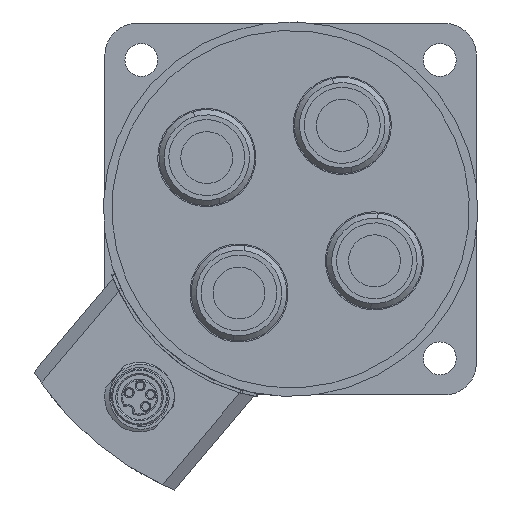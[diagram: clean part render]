
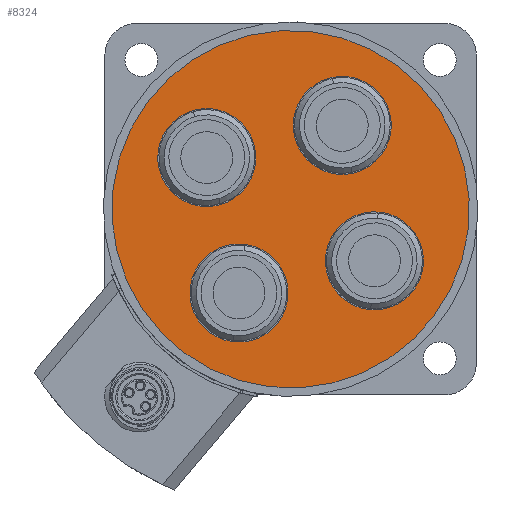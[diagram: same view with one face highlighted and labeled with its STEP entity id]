
A CAD part, left-side view. The second image highlights one B-rep face of the part: STEP entity #8324.
In plain terms, the highlighted planar face has unit normal (-1, 0, 0).
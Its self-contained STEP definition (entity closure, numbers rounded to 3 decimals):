
#159 = AXIS2_PLACEMENT_3D ( 'NONE', #8993, #16155, #1669 ) ;
#339 = AXIS2_PLACEMENT_3D ( 'NONE', #7915, #14897, #6416 ) ;
#388 = ORIENTED_EDGE ( 'NONE', *, *, #689, .F. ) ;
#536 = CARTESIAN_POINT ( 'NONE',  ( -172., -9.951, 5.705 ) ) ;
#628 = AXIS2_PLACEMENT_3D ( 'NONE', #12612, #15490, #1282 ) ;
#689 = EDGE_CURVE ( 'NONE', #18201, #9196, #16058, .T. ) ;
#744 = DIRECTION ( 'NONE',  ( 0., -0.231, -0.973 ) ) ;
#928 = DIRECTION ( 'NONE',  ( 0., 0.231, 0.973 ) ) ;
#940 = EDGE_CURVE ( 'NONE', #15068, #3623, #11328, .T. ) ;
#1209 = ORIENTED_EDGE ( 'NONE', *, *, #4234, .F. ) ;
#1270 = ORIENTED_EDGE ( 'NONE', *, *, #16879, .T. ) ;
#1282 = DIRECTION ( 'NONE',  ( 0., -0.231, -0.973 ) ) ;
#1474 = AXIS2_PLACEMENT_3D ( 'NONE', #1617, #7185, #16942 ) ;
#1552 = AXIS2_PLACEMENT_3D ( 'NONE', #8163, #9464, #928 ) ;
#1582 = DIRECTION ( 'NONE',  ( 0., -0.231, -0.973 ) ) ;
#1617 = CARTESIAN_POINT ( 'NONE',  ( -172., 0., 0. ) ) ;
#1625 = DIRECTION ( 'NONE',  ( -1., 0., 0. ) ) ;
#1669 = DIRECTION ( 'NONE',  ( 0., 0.231, 0.973 ) ) ;
#1699 = AXIS2_PLACEMENT_3D ( 'NONE', #14212, #11217, #8240 ) ;
#2195 = EDGE_LOOP ( 'NONE', ( #12290, #11322 ) ) ;
#2923 = EDGE_LOOP ( 'NONE', ( #1270, #15280 ) ) ;
#2961 = DIRECTION ( 'NONE',  ( 0., 0.231, 0.973 ) ) ;
#3183 = VERTEX_POINT ( 'NONE', #9647 ) ;
#3623 = VERTEX_POINT ( 'NONE', #12349 ) ;
#3917 = VERTEX_POINT ( 'NONE', #11918 ) ;
#4045 = FACE_BOUND ( 'NONE', #14836, .T. ) ;
#4222 = FACE_BOUND ( 'NONE', #5003, .T. ) ;
#4234 = EDGE_CURVE ( 'NONE', #6779, #14866, #12665, .T. ) ;
#4663 = CIRCLE ( 'NONE', #7354, 28.25 ) ;
#5003 = EDGE_LOOP ( 'NONE', ( #5105, #1209 ) ) ;
#5105 = ORIENTED_EDGE ( 'NONE', *, *, #7746, .F. ) ;
#5123 = CARTESIAN_POINT ( 'NONE',  ( -172., 6.531, 27.485 ) ) ;
#5210 = CARTESIAN_POINT ( 'NONE',  ( -172., 6.367, -20.785 ) ) ;
#5557 = EDGE_CURVE ( 'NONE', #3623, #15068, #15053, .T. ) ;
#5725 = CARTESIAN_POINT ( 'NONE',  ( -172., 8.159, -13.245 ) ) ;
#5934 = DIRECTION ( 'NONE',  ( -1., 0., 0. ) ) ;
#6005 = CARTESIAN_POINT ( 'NONE',  ( -172., -15.037, -15.699 ) ) ;
#6065 = EDGE_LOOP ( 'NONE', ( #388, #9383 ) ) ;
#6310 = ORIENTED_EDGE ( 'NONE', *, *, #5557, .F. ) ;
#6416 = DIRECTION ( 'NONE',  ( 0., -0.231, -0.973 ) ) ;
#6685 = CARTESIAN_POINT ( 'NONE',  ( -172., 0., 0. ) ) ;
#6779 = VERTEX_POINT ( 'NONE', #16203 ) ;
#6844 = EDGE_CURVE ( 'NONE', #16126, #3917, #8060, .T. ) ;
#7057 = DIRECTION ( 'NONE',  ( -1., 0., 0. ) ) ;
#7185 = DIRECTION ( 'NONE',  ( -1., 0., 0. ) ) ;
#7217 = PLANE ( 'NONE',  #1699 ) ;
#7354 = AXIS2_PLACEMENT_3D ( 'NONE', #6685, #9378, #744 ) ;
#7629 = CARTESIAN_POINT ( 'NONE',  ( -172., -11.453, -0.619 ) ) ;
#7746 = EDGE_CURVE ( 'NONE', #14866, #6779, #12012, .T. ) ;
#7915 = CARTESIAN_POINT ( 'NONE',  ( -172., 13.245, 8.159 ) ) ;
#8060 = CIRCLE ( 'NONE', #11972, 7.75 ) ;
#8163 = CARTESIAN_POINT ( 'NONE',  ( -172., -8.159, 13.245 ) ) ;
#8179 = CIRCLE ( 'NONE', #159, 7.75 ) ;
#8240 = DIRECTION ( 'NONE',  ( 0., -0.231, -0.973 ) ) ;
#8324 = ADVANCED_FACE ( 'NONE', ( #4222, #11114, #4045, #11483, #11402 ), #7217, .T. ) ;
#8602 = AXIS2_PLACEMENT_3D ( 'NONE', #8983, #15691, #1582 ) ;
#8983 = CARTESIAN_POINT ( 'NONE',  ( -172., -13.245, -8.159 ) ) ;
#8993 = CARTESIAN_POINT ( 'NONE',  ( -172., 8.159, -13.245 ) ) ;
#9196 = VERTEX_POINT ( 'NONE', #7629 ) ;
#9378 = DIRECTION ( 'NONE',  ( -1., 0., 0. ) ) ;
#9383 = ORIENTED_EDGE ( 'NONE', *, *, #18188, .F. ) ;
#9464 = DIRECTION ( 'NONE',  ( -1., 0., 0. ) ) ;
#9647 = CARTESIAN_POINT ( 'NONE',  ( -172., -6.531, -27.485 ) ) ;
#10047 = CARTESIAN_POINT ( 'NONE',  ( -172., -8.159, 13.245 ) ) ;
#10074 = CARTESIAN_POINT ( 'NONE',  ( -172., 13.245, 8.159 ) ) ;
#11114 = FACE_BOUND ( 'NONE', #2195, .T. ) ;
#11217 = DIRECTION ( 'NONE',  ( -1., 0., 0. ) ) ;
#11322 = ORIENTED_EDGE ( 'NONE', *, *, #14820, .F. ) ;
#11328 = CIRCLE ( 'NONE', #339, 7.75 ) ;
#11402 = FACE_OUTER_BOUND ( 'NONE', #2923, .T. ) ;
#11483 = FACE_BOUND ( 'NONE', #6065, .T. ) ;
#11670 = CARTESIAN_POINT ( 'NONE',  ( -172., 15.037, 15.699 ) ) ;
#11918 = CARTESIAN_POINT ( 'NONE',  ( -172., 9.951, -5.705 ) ) ;
#11972 = AXIS2_PLACEMENT_3D ( 'NONE', #5725, #7057, #13118 ) ;
#12012 = CIRCLE ( 'NONE', #1552, 7.75 ) ;
#12290 = ORIENTED_EDGE ( 'NONE', *, *, #6844, .F. ) ;
#12349 = CARTESIAN_POINT ( 'NONE',  ( -172., 11.453, 0.619 ) ) ;
#12612 = CARTESIAN_POINT ( 'NONE',  ( -172., -13.245, -8.159 ) ) ;
#12665 = CIRCLE ( 'NONE', #17676, 7.75 ) ;
#12795 = DIRECTION ( 'NONE',  ( 0., -0.231, -0.973 ) ) ;
#13118 = DIRECTION ( 'NONE',  ( 0., 0.231, 0.973 ) ) ;
#13864 = VERTEX_POINT ( 'NONE', #5123 ) ;
#14185 = AXIS2_PLACEMENT_3D ( 'NONE', #10074, #1625, #12795 ) ;
#14212 = CARTESIAN_POINT ( 'NONE',  ( -172., 0., 0. ) ) ;
#14820 = EDGE_CURVE ( 'NONE', #3917, #16126, #8179, .T. ) ;
#14836 = EDGE_LOOP ( 'NONE', ( #6310, #16509 ) ) ;
#14866 = VERTEX_POINT ( 'NONE', #536 ) ;
#14897 = DIRECTION ( 'NONE',  ( -1., 0., 0. ) ) ;
#15053 = CIRCLE ( 'NONE', #14185, 7.75 ) ;
#15068 = VERTEX_POINT ( 'NONE', #11670 ) ;
#15280 = ORIENTED_EDGE ( 'NONE', *, *, #17489, .T. ) ;
#15490 = DIRECTION ( 'NONE',  ( -1., 0., 0. ) ) ;
#15691 = DIRECTION ( 'NONE',  ( -1., 0., 0. ) ) ;
#16058 = CIRCLE ( 'NONE', #628, 7.75 ) ;
#16126 = VERTEX_POINT ( 'NONE', #5210 ) ;
#16155 = DIRECTION ( 'NONE',  ( -1., 0., 0. ) ) ;
#16203 = CARTESIAN_POINT ( 'NONE',  ( -172., -6.367, 20.785 ) ) ;
#16509 = ORIENTED_EDGE ( 'NONE', *, *, #940, .F. ) ;
#16571 = CIRCLE ( 'NONE', #1474, 28.25 ) ;
#16600 = CIRCLE ( 'NONE', #8602, 7.75 ) ;
#16879 = EDGE_CURVE ( 'NONE', #3183, #13864, #4663, .T. ) ;
#16942 = DIRECTION ( 'NONE',  ( 0., -0.231, -0.973 ) ) ;
#17489 = EDGE_CURVE ( 'NONE', #13864, #3183, #16571, .T. ) ;
#17676 = AXIS2_PLACEMENT_3D ( 'NONE', #10047, #5934, #2961 ) ;
#18188 = EDGE_CURVE ( 'NONE', #9196, #18201, #16600, .T. ) ;
#18201 = VERTEX_POINT ( 'NONE', #6005 ) ;
